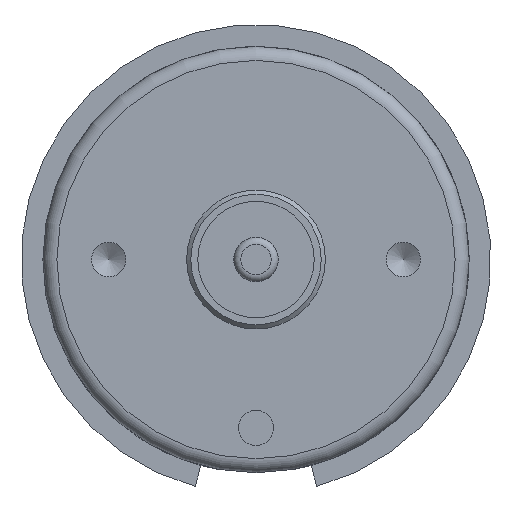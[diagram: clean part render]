
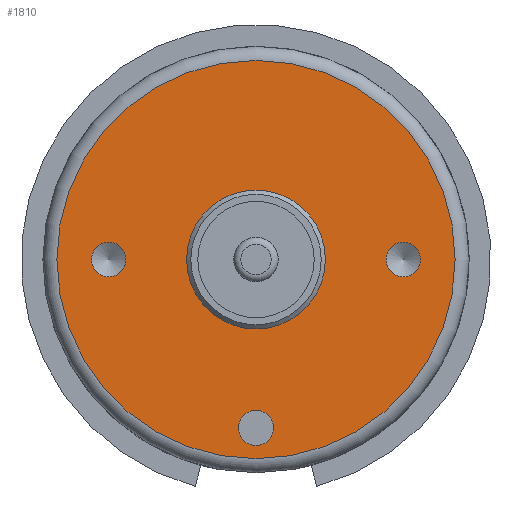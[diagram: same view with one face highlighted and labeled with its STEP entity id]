
A CAD part, front view. The second image highlights one B-rep face of the part: STEP entity #1810.
In plain terms, the highlighted planar face has unit normal (0, -1, 0).
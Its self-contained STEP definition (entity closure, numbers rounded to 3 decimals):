
#48=FACE_BOUND('',#386,.T.);
#49=FACE_BOUND('',#387,.T.);
#50=FACE_BOUND('',#388,.T.);
#51=FACE_BOUND('',#389,.T.);
#106=PLANE('',#2041);
#256=FACE_OUTER_BOUND('',#385,.T.);
#385=EDGE_LOOP('',(#1644));
#386=EDGE_LOOP('',(#1645));
#387=EDGE_LOOP('',(#1646));
#388=EDGE_LOOP('',(#1647));
#389=EDGE_LOOP('',(#1648));
#761=CIRCLE('',#2024,1.25);
#764=CIRCLE('',#2030,1.23);
#766=CIRCLE('',#2034,1.23);
#767=CIRCLE('',#2036,14.2);
#771=CIRCLE('',#2042,4.95);
#921=VERTEX_POINT('',#3079);
#925=VERTEX_POINT('',#3091);
#928=VERTEX_POINT('',#3100);
#929=VERTEX_POINT('',#3104);
#932=VERTEX_POINT('',#3115);
#1155=EDGE_CURVE('',#921,#921,#761,.T.);
#1160=EDGE_CURVE('',#925,#925,#764,.T.);
#1164=EDGE_CURVE('',#928,#928,#766,.T.);
#1166=EDGE_CURVE('',#929,#929,#767,.T.);
#1172=EDGE_CURVE('',#932,#932,#771,.T.);
#1644=ORIENTED_EDGE('',*,*,#1166,.F.);
#1645=ORIENTED_EDGE('',*,*,#1155,.T.);
#1646=ORIENTED_EDGE('',*,*,#1160,.T.);
#1647=ORIENTED_EDGE('',*,*,#1164,.T.);
#1648=ORIENTED_EDGE('',*,*,#1172,.T.);
#1810=ADVANCED_FACE('',(#256,#48,#49,#50,#51),#106,.T.);
#2024=AXIS2_PLACEMENT_3D('',#3080,#2552,#2553);
#2030=AXIS2_PLACEMENT_3D('',#3092,#2566,#2567);
#2034=AXIS2_PLACEMENT_3D('',#3101,#2576,#2577);
#2036=AXIS2_PLACEMENT_3D('',#3105,#2581,#2582);
#2041=AXIS2_PLACEMENT_3D('',#3114,#2593,#2594);
#2042=AXIS2_PLACEMENT_3D('',#3116,#2595,#2596);
#2552=DIRECTION('center_axis',(0.,1.,0.));
#2553=DIRECTION('ref_axis',(-1.,0.,0.));
#2566=DIRECTION('center_axis',(0.,1.,0.));
#2567=DIRECTION('ref_axis',(1.,0.,0.));
#2576=DIRECTION('center_axis',(0.,1.,0.));
#2577=DIRECTION('ref_axis',(1.,0.,0.));
#2581=DIRECTION('center_axis',(0.,1.,0.));
#2582=DIRECTION('ref_axis',(1.,0.,0.));
#2593=DIRECTION('center_axis',(0.,-1.,0.));
#2594=DIRECTION('ref_axis',(0.,0.,-1.));
#2595=DIRECTION('center_axis',(0.,1.,0.));
#2596=DIRECTION('ref_axis',(-1.,0.,0.));
#3079=CARTESIAN_POINT('',(1.25,0.,-12.));
#3080=CARTESIAN_POINT('Origin',(0.,0.,-12.));
#3091=CARTESIAN_POINT('',(9.271,0.,0.));
#3092=CARTESIAN_POINT('Origin',(10.5,0.,0.));
#3100=CARTESIAN_POINT('',(-11.73,0.,0.));
#3101=CARTESIAN_POINT('Origin',(-10.5,0.,0.));
#3104=CARTESIAN_POINT('',(0.,0.,14.2));
#3105=CARTESIAN_POINT('Origin',(0.,0.,0.));
#3114=CARTESIAN_POINT('Origin',(0.,0.,0.));
#3115=CARTESIAN_POINT('',(4.95,0.,0.));
#3116=CARTESIAN_POINT('Origin',(0.,0.,0.));
